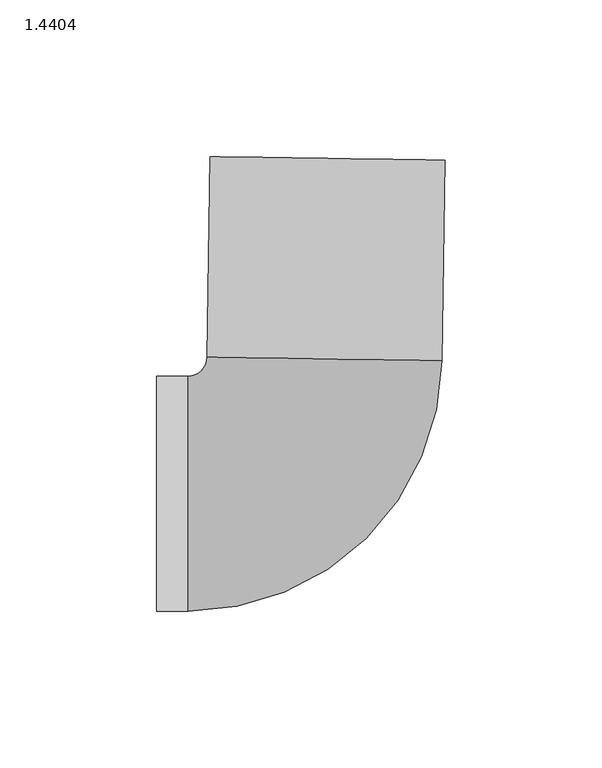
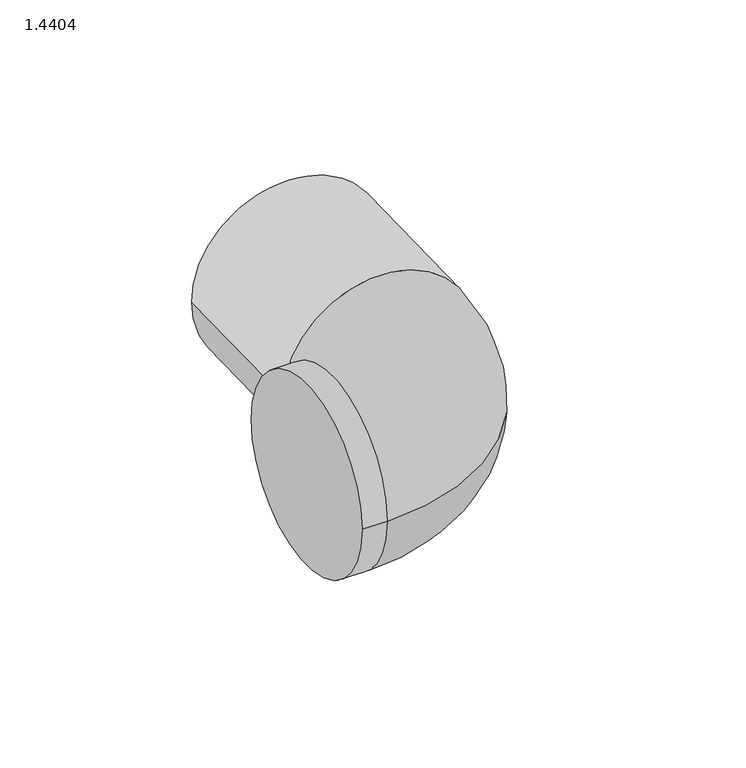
"""IFC4 building model written with IfcOpenShell, lengths in millimetres: pipe fitting geometry, PIF_ST_UN_ACO pipe bend_ACO : 1.4404."""

from ifc_helpers import new_model, si_unit, point, frame, origin, place, context, project, spatial, circle_curve, ellipse_curve, trimmed, source, transform, mapped, element, save
from ifc_brep_helpers import plane_surface, cylinder_surface, revolved_surface, advanced_brep


def pipe_fitting_1_4404_ad30eb08(model_context):
    return source(origin(), model_context, "Body", "AdvancedBrep", [
        advanced_brep(
        [(-36.8508545, 43.5576, 0.0), (-43.0, 37.5, 0.0), (-43.0, -37.5, 0.0), (38.1407094, 42.4327266, 0.0), (0.6449274, 42.9951633, 37.5), (0.6449274, 42.9951633, -37.5), (-53.0, -37.5, 0.0), (-53.0, 37.5, 0.0), (39.1006014, 106.4255278, 0.0), (-35.8909625, 107.5504013, 0.0)],
        [
            (0, 1, circle_curve(frame((-43.0, 43.6498372, 0.0), z_axis=(0.0, 0.0, -1.0), x_axis=(0.0, -1.0, 0.0)), 6.1498372)),
            (1, 2, circle_curve(frame((-43.0, 0.0, 0.0), z_axis=(1.0, 0.0, 0.0), x_axis=(0.0, 1.0, 0.0)), 37.5)),
            (2, 3, circle_curve(frame((-43.0, 43.6498372, 0.0), z_axis=(0.0, 0.0, 1.0), x_axis=(0.0, -1.0, 0.0)), 81.1498372)),
            (3, 4, circle_curve(frame((0.6449274, 42.9951633, 0.0), z_axis=(-0.014998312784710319, -0.9998875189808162, 0.0), x_axis=(-0.9998875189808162, 0.014998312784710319, 0.0)), 37.5)),
            (4, 0, circle_curve(frame((0.6449274, 42.9951633, 0.0), z_axis=(-0.014998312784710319, -0.9998875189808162, 0.0), x_axis=(-0.9998875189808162, 0.014998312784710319, 0.0)), 37.5)),
            (0, 5, circle_curve(frame((0.6449274, 42.9951633, 0.0), z_axis=(-0.014998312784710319, -0.9998875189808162, 0.0), x_axis=(-0.9998875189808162, 0.014998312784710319, 0.0)), 37.5)),
            (5, 3, circle_curve(frame((0.6449274, 42.9951633, 0.0), z_axis=(-0.014998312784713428, -0.9998875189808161, 0.0), x_axis=(-0.9998875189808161, 0.014998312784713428, 0.0)), 37.5)),
            (2, 1, circle_curve(frame((-43.0, 0.0, 0.0), z_axis=(1.0, 0.0, 0.0), x_axis=(0.0, 1.0, 0.0)), 37.5)),
            (6, 7, circle_curve(frame((-53.0, 0.0, 0.0), z_axis=(-1.0, 0.0, 0.0), x_axis=(0.0, 1.0, 0.0)), 37.5)),
            (7, 6, circle_curve(frame((-53.0, 0.0, 0.0), z_axis=(-1.0, 0.0, 0.0), x_axis=(0.0, 1.0, 0.0)), 37.5)),
            (7, 1),
            (2, 6),
            (8, 9, circle_curve(frame((1.6048195, 106.9879645, 0.0), z_axis=(0.01499831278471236, 0.9998875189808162, 0.0), x_axis=(-0.9998875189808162, 0.01499831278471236, 0.0)), 37.5)),
            (9, 8, circle_curve(frame((1.6048195, 106.9879645, 0.0), z_axis=(0.01499831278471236, 0.9998875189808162, 0.0), x_axis=(-0.9998875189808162, 0.01499831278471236, 0.0)), 37.5)),
            (9, 0),
            (3, 8),
        ],
        [
            revolved_surface(trimmed(ellipse_curve(frame((-43.0, 0.0, 0.0), z_axis=(-1.0, 0.0, 0.0), x_axis=(0.0, 1.0, 0.0)), 37.5, 37.5), [point((-43.0, -37.5, 0.0))], [point((-43.0, 37.5, 0.0))], True, "CARTESIAN"), (-43.0, 43.6498372, 0.0), (0.0, 0.0, 1.0)),
            revolved_surface(trimmed(ellipse_curve(frame((-43.0, 0.0, 0.0), z_axis=(-1.0, 0.0, 0.0), x_axis=(0.0, 1.0, 0.0)), 37.5, 37.5), [point((-43.0, 37.5, 0.0))], [point((-43.0, -37.5, 0.0))], True, "CARTESIAN"), (-43.0, 43.6498372, 0.0), (0.0, 0.0, 1.0)),
            plane_surface(frame((-53.0, 37.5, 0.0), z_axis=(-1.0, 0.0, 0.0), x_axis=(0.0, 0.0, -1.0))),
            cylinder_surface(frame((-53.0, 0.0, 0.0), z_axis=(1.0, 0.0, 0.0), x_axis=(0.0, 1.0, 0.0)), 37.5),
            plane_surface(frame((1.6048195, 106.9879645, 0.0), z_axis=(0.014998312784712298, 0.9998875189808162, 0.0), x_axis=(0.0, 0.0, 1.0))),
            cylinder_surface(frame((0.6449274, 42.9951633, 0.0), z_axis=(-0.01499831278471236, -0.9998875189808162, 0.0), x_axis=(-0.9998875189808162, 0.01499831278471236, 0.0)), 37.5),
        ],
        [
            (0, [[1, 2, 3, 4, 5]]),
            (1, [[-1, 6, 7, -3, 8]]),
            (2, [[9, 10]]),
            (3, [[-10, 11, -8, 12]]),
            (3, [[-9, -12, -2, -11]]),
            (4, [[13, 14]]),
            (5, [[-14, 15, -5, -4, 16]]),
            (5, [[-13, -16, -7, -6, -15]]),
        ],
    ),
    ])


if __name__ == "__main__":
    model = new_model("IFC4")
    model_context = context("Model", 3, world=origin())
    ifc_project = project(units=[si_unit("LENGTHUNIT", "METRE", prefix="MILLI")], contexts=[model_context])
    site = spatial("IfcSite", under=ifc_project)
    building = spatial("IfcBuilding", under=site)
    placement = place(None, origin())
    pipe_fitting_1_4404_shape = pipe_fitting_1_4404_ad30eb08(model_context)
    element("IfcPipeFitting", 1, ObjectType="PIF_ST_UN_ACO pipe bend_ACO : 1.4404", at=placement, inside=building, context=model_context, shape_type="MappedRepresentation", body=[
        mapped(pipe_fitting_1_4404_shape, transform((0.0, 0.0, 0.0), x_axis=(1.0, 0.0, 0.0), y_axis=(0.0, 1.0, 0.0), z_axis=(0.0, 0.0, 1.0))),
    ])
    save(model, "model.ifc")
